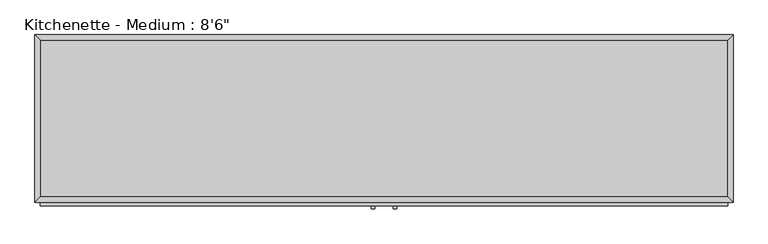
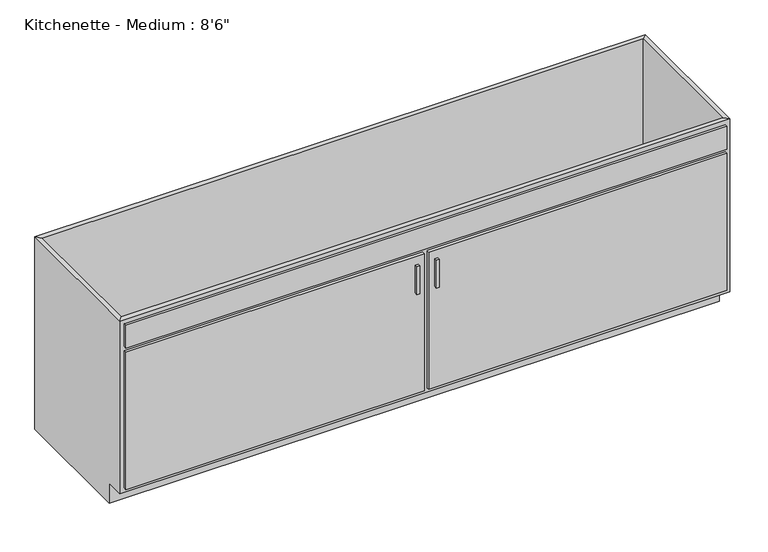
"""IFC4 building model written with IfcOpenShell, lengths in millimetres: proxy geometry."""

from ifc_helpers import new_model, si_unit, frame, origin, place, context, project, spatial, polyline, outline, extrude, faceted_brep, source, transform, mapped, element, save


def proxy_2d72b8be(model_context):
    return source(origin(), model_context, "Body", "SolidModel", [
        faceted_brep([(1295.0877049, -603.25, 863.6), (1295.0877049, -603.25, 88.9), (-1257.6122951, -603.25, 88.9), (-1257.6122951, -603.25, 863.6), (-1276.6622951, -622.3, 863.6), (1314.1377049, -622.3, 863.6), (-1276.6622951, -622.3, 88.9), (1314.1377049, -622.3, 88.9), (-1257.6122951, -546.1, 88.9), (-1257.6122951, -19.05, 88.9), (-1257.6122951, -19.05, 863.6), (-1276.6622951, 0.0, 863.6), (-1276.6622951, 0.0, 0.0), (-1276.6622951, -546.1, 0.0), (-1276.6622951, -546.1, 88.9), (1295.0877049, -19.05, 88.9), (1295.0877049, -19.05, 863.6), (1314.1377049, 0.0, 863.6), (1314.1377049, 0.0, 0.0), (1295.0877049, -546.1, 88.9), (1314.1377049, -546.1, 88.9), (1314.1377049, -546.1, 0.0)], [[[0, 1, 2, 3]], [[0, 3, 4, 5]], [[5, 4, 6, 7]], [[2, 1, 7, 6]], [[3, 2, 8, 9, 10]], [[4, 3, 10, 11]], [[6, 4, 11, 12, 13, 14]], [[2, 6, 14, 8]], [[10, 9, 15, 16]], [[11, 10, 16, 17]], [[12, 11, 17, 18]], [[1, 0, 16, 15, 19]], [[0, 5, 17, 16]], [[5, 7, 20, 21, 18, 17]], [[7, 1, 19, 20]], [[8, 19, 15, 9]], [[18, 21, 13, 12]], [[13, 21, 20, 19, 8, 14]]]),
        extrude(outline(polyline([(-16.1872951, -647.7), (-28.8872951, -647.7), (-28.8872951, -635.0), (-16.1872951, -635.0), (-16.1872951, -647.7)])), frame((0.0, 0.0, 561.069895), z_axis=(0.0, 0.0, 1.0), x_axis=(1.0, 0.0, 0.0)), (0.0, 0.0, 1.0), 124.730105),
        extrude(outline(polyline([(66.3627049, -647.7), (53.6627049, -647.7), (53.6627049, -635.0), (66.3627049, -635.0), (66.3627049, -647.7)])), frame((0.0, 0.0, 561.069895), z_axis=(0.0, 0.0, 1.0), x_axis=(1.0, 0.0, 0.0)), (0.0, 0.0, 1.0), 124.730105),
        extrude(outline(polyline([(1295.0877049, -19.05), (1295.0877049, -603.25), (-1257.6122951, -603.25), (-1257.6122951, -19.05), (1295.0877049, -19.05)])), frame((0.0, 0.0, 88.9), z_axis=(0.0, 0.0, 1.0), x_axis=(1.0, 0.0, 0.0)), (0.0, 0.0, 1.0), 19.05),
        extrude(outline(polyline([(9.2127049, -635.0), (-1257.6122951, -635.0), (-1257.6122951, -622.3), (9.2127049, -622.3), (9.2127049, -635.0)])), frame((0.0, 0.0, 107.95), z_axis=(0.0, 0.0, 1.0), x_axis=(1.0, 0.0, 0.0)), (0.0, 0.0, 1.0), 615.95),
        extrude(outline(polyline([(1295.0877049, -635.0), (28.2627049, -635.0), (28.2627049, -622.3), (1295.0877049, -622.3), (1295.0877049, -635.0)])), frame((0.0, 0.0, 107.95), z_axis=(0.0, 0.0, 1.0), x_axis=(1.0, 0.0, 0.0)), (0.0, 0.0, 1.0), 615.95),
        extrude(outline(polyline([(1295.0877049, -635.0), (-1257.6122951, -635.0), (-1257.6122951, -622.3), (1295.0877049, -622.3), (1295.0877049, -635.0)])), frame((0.0, 0.0, 742.95), z_axis=(0.0, 0.0, 1.0), x_axis=(1.0, 0.0, 0.0)), (0.0, 0.0, 1.0), 101.6),
    ])


if __name__ == "__main__":
    model = new_model("IFC4")
    model_context = context("Model", 3, world=origin())
    ifc_project = project(units=[si_unit("LENGTHUNIT", "METRE", prefix="MILLI")], contexts=[model_context])
    site = spatial("IfcSite", under=ifc_project)
    building = spatial("IfcBuilding", under=site)
    placement = place(None, origin())
    proxy_shape = proxy_2d72b8be(model_context)
    element("IfcBuildingElementProxy", 1, Name="Kitchenette - Medium : 8'6\"", ObjectType="Kitchenette - Medium : 8'6\"", at=placement, inside=building, context=model_context, shape_type="MappedRepresentation", body=[
        mapped(proxy_shape, transform((0.0, 0.0, 0.0), x_axis=(1.0, 0.0, 0.0), y_axis=(0.0, 1.0, 0.0), z_axis=(0.0, 0.0, 1.0))),
    ])
    save(model, "model.ifc")
